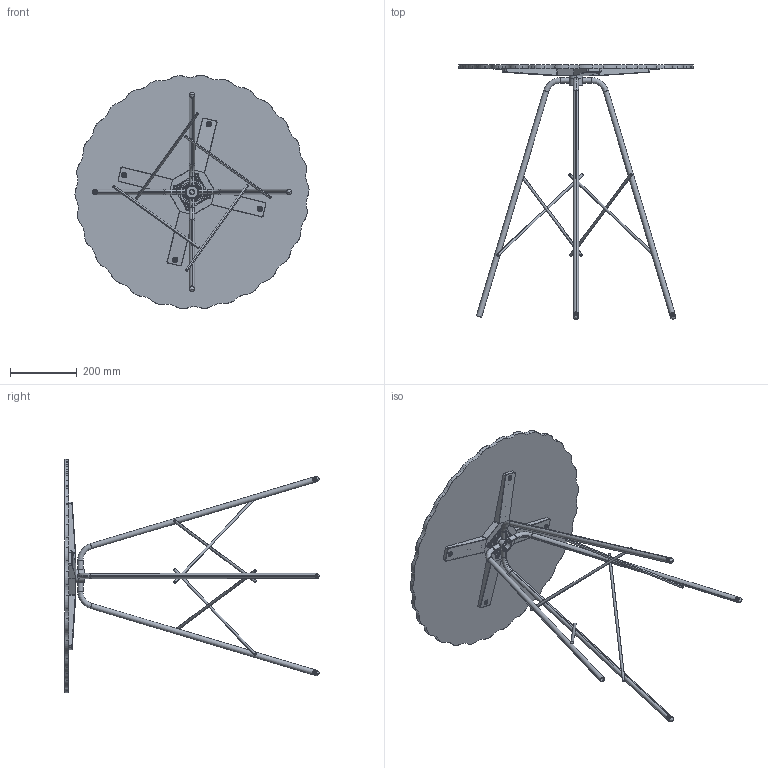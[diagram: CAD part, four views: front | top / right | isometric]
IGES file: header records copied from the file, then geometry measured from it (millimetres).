
Start section: SolidWorks IGES file using NURBS representation for surfaces
Global section: file name: R:\UFFICIO TECNICO\ARCHIVIO DISEGNI\3D\BREAK 4.IGS; native system: SolidWorks 2011; preprocessor: SolidWorks 2011; author: Alberto; date: 120515.172542; units: millimetre
Bounding box: 702.89 x 763.88 x 700.66 mm (x, y, z)
Surface area: 1299325.3 mm2 (no closed solid volume)
Topology: 0 solids, 0 shells, 980 faces, 14515 edges, 14487 vertices
Faces by surface type: bspline 980
